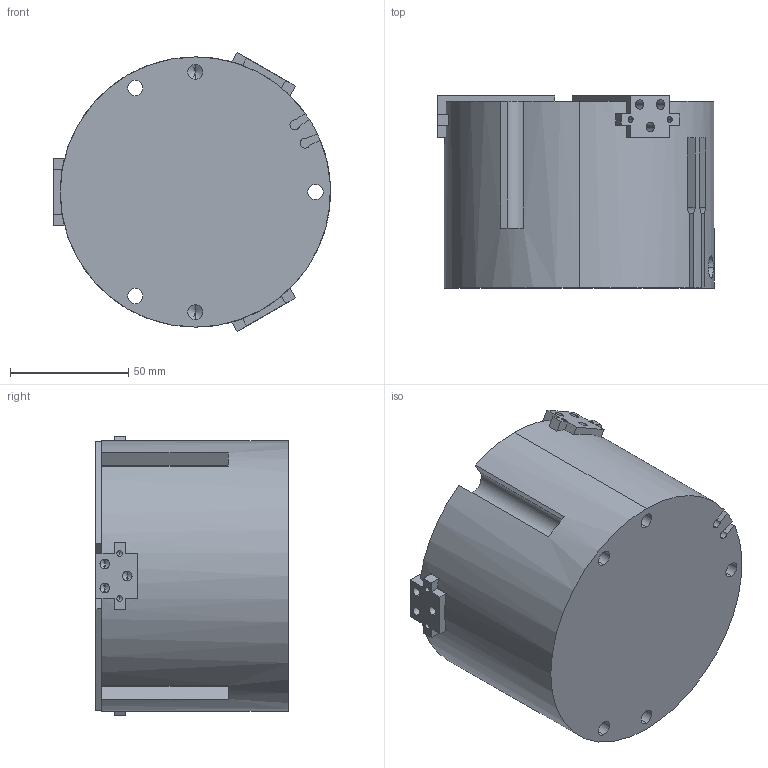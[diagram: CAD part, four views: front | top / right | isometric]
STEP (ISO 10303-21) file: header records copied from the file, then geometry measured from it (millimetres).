
FILE_DESCRIPTION (( 'STEP AP203' ), '1' );
FILE_NAME ('AGP-83 CLOSED in IN.STEP', '2014-11-05T14:44:40', ( 'setup' ), ( '' ), 'SwSTEP 2.0', 'SolidWorks 2013', '' );
FILE_SCHEMA (( 'CONFIG_CONTROL_DESIGN' ));
Length unit declared in the file: inch
Products named in the file (3): AGP-83 Body ; Slider Jaw; AGP-83 CLOSED in IN
Assembly tree (4 placements, depth 2):
  AGP-83 CLOSED in IN
    AGP-83 Body 
    Slider Jaw  x3
Bounding box: 117.06 x 81.28 x 118.05 mm (x, y, z)
Volume: 782375.6 mm3; surface area: 81501.1 mm2
Topology: 4 solids, 4 shells, 252 faces, 659 edges, 396 vertices
Faces by surface type: plane 114, cylinder 82, cone 56
Entity records: 5324 total; most frequent: CARTESIAN_POINT 1080, DIRECTION 831, ORIENTED_EDGE 790, EDGE_CURVE 395, AXIS2_PLACEMENT_3D 287, VERTEX_POINT 260, LINE 257, VECTOR 257
